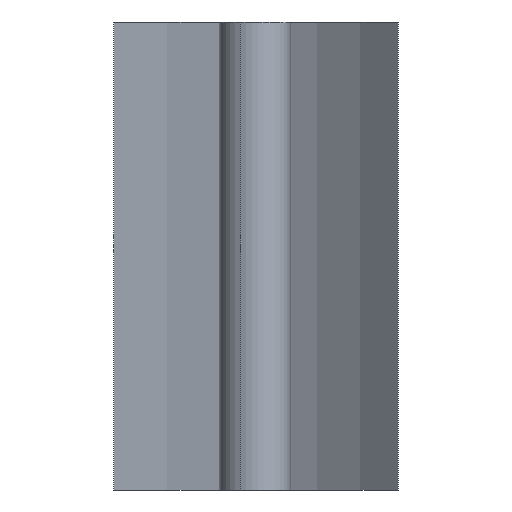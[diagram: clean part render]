
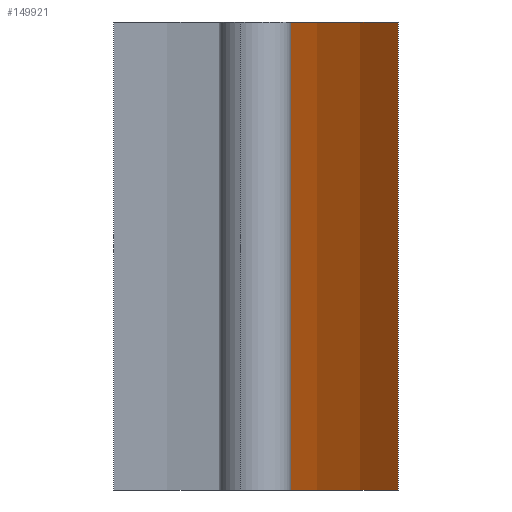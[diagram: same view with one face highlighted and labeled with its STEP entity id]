
A CAD part, front view. The second image highlights one B-rep face of the part: STEP entity #149921.
In plain terms, the highlighted cylindrical face has radius 8.6 mm (diameter 17.2 mm), a partial arc.
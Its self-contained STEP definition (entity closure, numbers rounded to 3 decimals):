
#7869=CYLINDRICAL_SURFACE('',#167268,8.6);
#11276=LINE('',#259871,#15630);
#11278=LINE('',#259895,#15632);
#15630=VECTOR('',#203844,10.);
#15632=VECTOR('',#203874,10.);
#25122=FACE_OUTER_BOUND('',#36236,.T.);
#36236=EDGE_LOOP('',(#111545,#111546,#111547,#111548));
#50802=CIRCLE('',#167240,8.6);
#50817=CIRCLE('',#167269,8.6);
#65046=VERTEX_POINT('',#259869);
#65047=VERTEX_POINT('',#259870);
#65054=VERTEX_POINT('',#259893);
#65055=VERTEX_POINT('',#259894);
#81451=EDGE_CURVE('',#65046,#65047,#11276,.T.);
#81463=EDGE_CURVE('',#65054,#65055,#11278,.T.);
#81646=EDGE_CURVE('',#65046,#65054,#50802,.T.);
#81662=EDGE_CURVE('',#65047,#65055,#50817,.T.);
#111545=ORIENTED_EDGE('',*,*,#81451,.T.);
#111546=ORIENTED_EDGE('',*,*,#81662,.T.);
#111547=ORIENTED_EDGE('',*,*,#81463,.F.);
#111548=ORIENTED_EDGE('',*,*,#81646,.F.);
#149921=ADVANCED_FACE('',(#25122),#7869,.F.);
#167240=AXIS2_PLACEMENT_3D('',#260247,#204344,#204345);
#167268=AXIS2_PLACEMENT_3D('',#260277,#204401,#204402);
#167269=AXIS2_PLACEMENT_3D('',#260278,#204403,#204404);
#203844=DIRECTION('',(0.,0.,-1.));
#203874=DIRECTION('',(0.,0.,-1.));
#204344=DIRECTION('center_axis',(0.,0.,-1.));
#204345=DIRECTION('ref_axis',(0.,1.,0.));
#204401=DIRECTION('center_axis',(0.,0.,-1.));
#204402=DIRECTION('ref_axis',(0.,1.,0.));
#204403=DIRECTION('center_axis',(0.,0.,-1.));
#204404=DIRECTION('ref_axis',(0.,1.,0.));
#259869=CARTESIAN_POINT('',(3.498,7.856,12.25));
#259870=CARTESIAN_POINT('',(3.498,7.856,1.75));
#259871=CARTESIAN_POINT('',(3.498,7.856,7.));
#259893=CARTESIAN_POINT('',(6.391,5.755,12.25));
#259894=CARTESIAN_POINT('',(6.391,5.755,1.75));
#259895=CARTESIAN_POINT('',(6.391,5.755,7.));
#260247=CARTESIAN_POINT('Origin',(0.,0.,12.25));
#260277=CARTESIAN_POINT('Origin',(0.,0.,7.));
#260278=CARTESIAN_POINT('Origin',(0.,0.,1.75));
